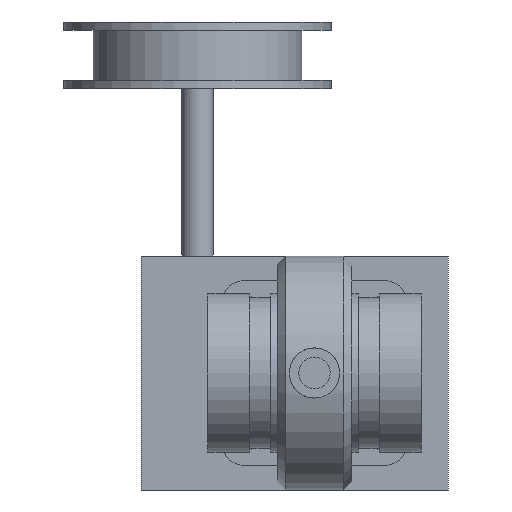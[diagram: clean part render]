
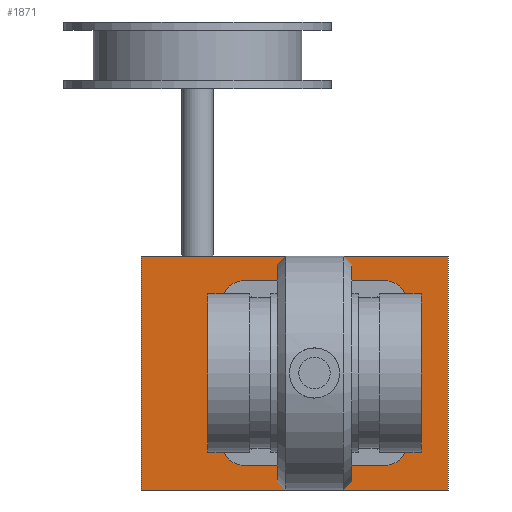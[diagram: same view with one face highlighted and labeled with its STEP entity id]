
A CAD part, front view. The second image highlights one B-rep face of the part: STEP entity #1871.
In plain terms, the highlighted planar face has unit normal (0, -1, 0).
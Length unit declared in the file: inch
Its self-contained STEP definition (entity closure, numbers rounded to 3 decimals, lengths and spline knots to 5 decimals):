
#38=FACE_BOUND('',#269,.T.);
#77=PLANE('',#2059);
#152=FACE_OUTER_BOUND('',#268,.T.);
#268=EDGE_LOOP('',(#1406,#1407,#1408,#1409));
#269=EDGE_LOOP('',(#1410,#1411,#1412,#1413,#1414,#1415,#1416,#1417));
#404=LINE('',#3024,#529);
#405=LINE('',#3026,#530);
#406=LINE('',#3028,#531);
#407=LINE('',#3029,#532);
#408=LINE('',#3034,#533);
#409=LINE('',#3038,#534);
#410=LINE('',#3042,#535);
#411=LINE('',#3045,#536);
#529=VECTOR('',#2467,0.3937);
#530=VECTOR('',#2468,0.3937);
#531=VECTOR('',#2469,0.3937);
#532=VECTOR('',#2470,0.3937);
#533=VECTOR('',#2473,0.3937);
#534=VECTOR('',#2476,0.3937);
#535=VECTOR('',#2479,0.3937);
#536=VECTOR('',#2482,0.3937);
#655=CIRCLE('',#2060,0.32);
#656=CIRCLE('',#2061,0.32);
#657=CIRCLE('',#2062,0.32);
#658=CIRCLE('',#2063,0.32);
#805=VERTEX_POINT('',#3022);
#806=VERTEX_POINT('',#3023);
#807=VERTEX_POINT('',#3025);
#808=VERTEX_POINT('',#3027);
#809=VERTEX_POINT('',#3030);
#810=VERTEX_POINT('',#3031);
#811=VERTEX_POINT('',#3033);
#812=VERTEX_POINT('',#3035);
#813=VERTEX_POINT('',#3037);
#814=VERTEX_POINT('',#3039);
#815=VERTEX_POINT('',#3041);
#816=VERTEX_POINT('',#3043);
#1024=EDGE_CURVE('',#805,#806,#404,.T.);
#1025=EDGE_CURVE('',#807,#805,#405,.T.);
#1026=EDGE_CURVE('',#808,#807,#406,.T.);
#1027=EDGE_CURVE('',#806,#808,#407,.T.);
#1028=EDGE_CURVE('',#809,#810,#655,.T.);
#1029=EDGE_CURVE('',#809,#811,#408,.T.);
#1030=EDGE_CURVE('',#812,#811,#656,.T.);
#1031=EDGE_CURVE('',#812,#813,#409,.T.);
#1032=EDGE_CURVE('',#814,#813,#657,.T.);
#1033=EDGE_CURVE('',#814,#815,#410,.T.);
#1034=EDGE_CURVE('',#816,#815,#658,.T.);
#1035=EDGE_CURVE('',#816,#810,#411,.T.);
#1406=ORIENTED_EDGE('',*,*,#1024,.F.);
#1407=ORIENTED_EDGE('',*,*,#1025,.F.);
#1408=ORIENTED_EDGE('',*,*,#1026,.F.);
#1409=ORIENTED_EDGE('',*,*,#1027,.F.);
#1410=ORIENTED_EDGE('',*,*,#1028,.F.);
#1411=ORIENTED_EDGE('',*,*,#1029,.T.);
#1412=ORIENTED_EDGE('',*,*,#1030,.F.);
#1413=ORIENTED_EDGE('',*,*,#1031,.T.);
#1414=ORIENTED_EDGE('',*,*,#1032,.F.);
#1415=ORIENTED_EDGE('',*,*,#1033,.T.);
#1416=ORIENTED_EDGE('',*,*,#1034,.F.);
#1417=ORIENTED_EDGE('',*,*,#1035,.T.);
#1871=ADVANCED_FACE('',(#152,#38),#77,.F.);
#2059=AXIS2_PLACEMENT_3D('',#3021,#2465,#2466);
#2060=AXIS2_PLACEMENT_3D('',#3032,#2471,#2472);
#2061=AXIS2_PLACEMENT_3D('',#3036,#2474,#2475);
#2062=AXIS2_PLACEMENT_3D('',#3040,#2477,#2478);
#2063=AXIS2_PLACEMENT_3D('',#3044,#2480,#2481);
#2465=DIRECTION('center_axis',(0.,1.,0.));
#2466=DIRECTION('ref_axis',(0.,0.,1.));
#2467=DIRECTION('',(0.,0.,-1.));
#2468=DIRECTION('',(1.,0.,0.));
#2469=DIRECTION('',(0.,0.,1.));
#2470=DIRECTION('',(-1.,0.,0.));
#2471=DIRECTION('center_axis',(0.,-1.,0.));
#2472=DIRECTION('ref_axis',(-0.707,0.,0.707));
#2473=DIRECTION('',(1.,0.,0.));
#2474=DIRECTION('center_axis',(0.,-1.,0.));
#2475=DIRECTION('ref_axis',(0.707,0.,0.707));
#2476=DIRECTION('',(0.,0.,-1.));
#2477=DIRECTION('center_axis',(0.,-1.,0.));
#2478=DIRECTION('ref_axis',(0.707,0.,-0.707));
#2479=DIRECTION('',(-1.,0.,0.));
#2480=DIRECTION('center_axis',(0.,-1.,0.));
#2481=DIRECTION('ref_axis',(-0.707,0.,-0.707));
#2482=DIRECTION('',(0.,0.,1.));
#3021=CARTESIAN_POINT('Origin',(-0.2975,4.13,0.));
#3022=CARTESIAN_POINT('',(2.,4.13,1.75));
#3023=CARTESIAN_POINT('',(2.,4.13,-1.75));
#3024=CARTESIAN_POINT('',(2.,4.13,1.75));
#3025=CARTESIAN_POINT('',(-2.595,4.13,1.75));
#3026=CARTESIAN_POINT('',(-2.595,4.13,1.75));
#3027=CARTESIAN_POINT('',(-2.595,4.13,-1.75));
#3028=CARTESIAN_POINT('',(-2.595,4.13,-1.75));
#3029=CARTESIAN_POINT('',(2.,4.13,-1.75));
#3030=CARTESIAN_POINT('',(-1.06,4.13,1.38));
#3031=CARTESIAN_POINT('',(-1.38,4.13,1.06));
#3032=CARTESIAN_POINT('Origin',(-1.06,4.13,1.06));
#3033=CARTESIAN_POINT('',(1.06,4.13,1.38));
#3034=CARTESIAN_POINT('',(-1.38,4.13,1.38));
#3035=CARTESIAN_POINT('',(1.38,4.13,1.06));
#3036=CARTESIAN_POINT('Origin',(1.06,4.13,1.06));
#3037=CARTESIAN_POINT('',(1.38,4.13,-1.06));
#3038=CARTESIAN_POINT('',(1.38,4.13,1.38));
#3039=CARTESIAN_POINT('',(1.06,4.13,-1.38));
#3040=CARTESIAN_POINT('Origin',(1.06,4.13,-1.06));
#3041=CARTESIAN_POINT('',(-1.06,4.13,-1.38));
#3042=CARTESIAN_POINT('',(1.38,4.13,-1.38));
#3043=CARTESIAN_POINT('',(-1.38,4.13,-1.06));
#3044=CARTESIAN_POINT('Origin',(-1.06,4.13,-1.06));
#3045=CARTESIAN_POINT('',(-1.38,4.13,-1.38));
